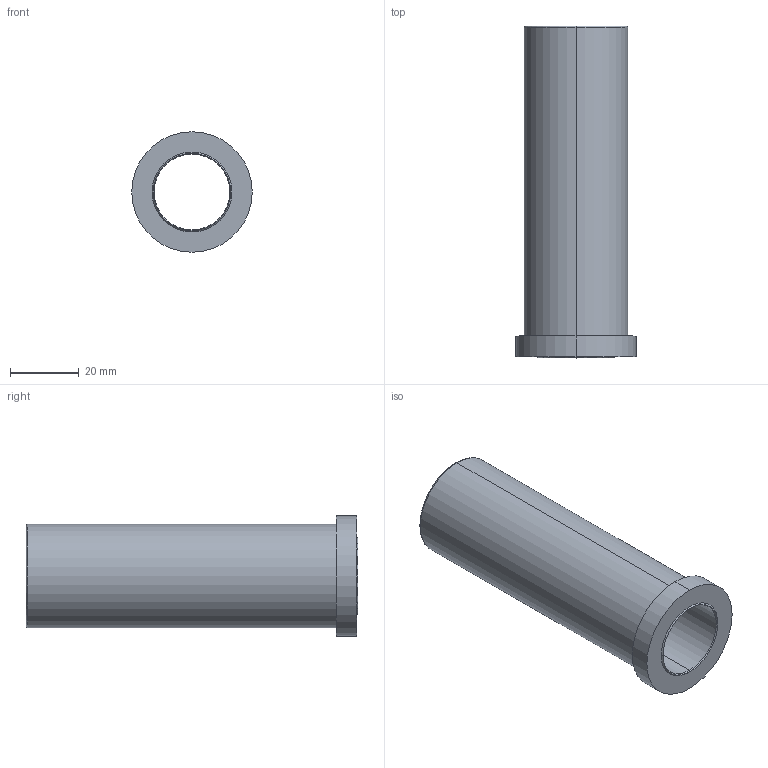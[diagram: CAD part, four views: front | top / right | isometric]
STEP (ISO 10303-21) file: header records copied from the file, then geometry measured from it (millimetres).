
FILE_DESCRIPTION (( 'STEP AP214' ), '1' );
FILE_NAME ('BR11 22x96.STEP', '2019-04-29T16:37:56', ( 'August' ), ( '' ), 'SwSTEP 2.0', 'SolidWorks 2018', '' );
FILE_SCHEMA (( 'AUTOMOTIVE_DESIGN' ));
Length unit declared in the file: millimetre
Products named in the file (1): BR11 22x96
Bounding box: 35 x 96.36 x 35 mm (x, y, z)
Volume: 32891.1 mm3; surface area: 16924.9 mm2
Topology: 1 solids, 1 shells, 17 faces, 34 edges, 20 vertices
Faces by surface type: cone 6, cylinder 6, plane 3, torus 2
Entity records: 484 total; most frequent: DIRECTION 92, CARTESIAN_POINT 72, ORIENTED_EDGE 68, AXIS2_PLACEMENT_3D 40, EDGE_CURVE 34, CIRCLE 22, EDGE_LOOP 20, VERTEX_POINT 20
